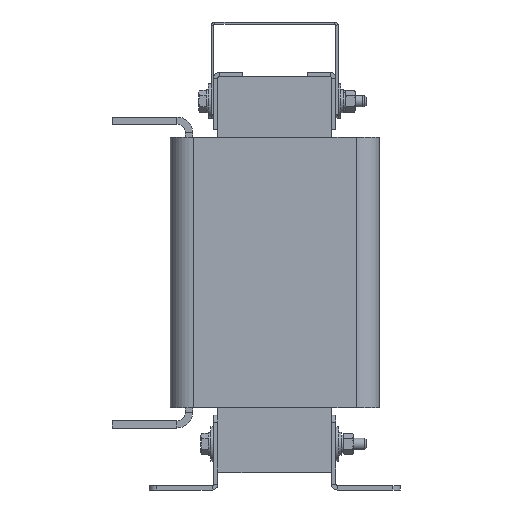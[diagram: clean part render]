
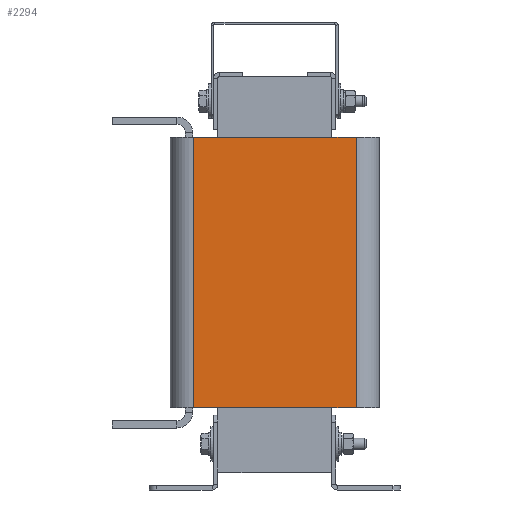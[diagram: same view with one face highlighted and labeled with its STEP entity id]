
A CAD part, left-side view. The second image highlights one B-rep face of the part: STEP entity #2294.
In plain terms, the highlighted planar face has unit normal (-1, 0, 0).
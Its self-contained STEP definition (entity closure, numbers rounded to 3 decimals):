
#2294=ADVANCED_FACE('',(#3320),#3322,.T.);
#3320=FACE_BOUND('',#3321,.T.);
#3321=EDGE_LOOP('',(#4594,#4595,#4596,#4597));
#3322=PLANE('',#3323);
#3323=AXIS2_PLACEMENT_3D('',#3324,#3325,#3326);
#3324=CARTESIAN_POINT('',(-43.,56.5,0.));
#3325=DIRECTION('',(-1.,0.,0.));
#3326=DIRECTION('',(0.,-1.,0.));
#4594=ORIENTED_EDGE('',*,*,#5213,.T.);
#4595=ORIENTED_EDGE('',*,*,#5241,.T.);
#4596=ORIENTED_EDGE('',*,*,#5218,.F.);
#4597=ORIENTED_EDGE('',*,*,#5234,.F.);
#5213=EDGE_CURVE('',#5730,#5742,#5744,.T.);
#5218=EDGE_CURVE('',#5753,#5754,#5755,.T.);
#5234=EDGE_CURVE('',#5730,#5753,#5781,.T.);
#5241=EDGE_CURVE('',#5742,#5754,#5788,.T.);
#5730=VERTEX_POINT('',#6778);
#5742=VERTEX_POINT('',#6805);
#5744=LINE('',#6810,#6811);
#5753=VERTEX_POINT('',#6829);
#5754=VERTEX_POINT('',#6830);
#5755=LINE('',#6831,#6832);
#5781=LINE('',#6893,#6894);
#5788=LINE('',#6914,#6915);
#6778=CARTESIAN_POINT('',(-43.,56.5,0.));
#6805=CARTESIAN_POINT('',(-43.,-56.5,0.));
#6810=CARTESIAN_POINT('',(-43.,56.5,0.));
#6811=VECTOR('',#6812,1.);
#6812=DIRECTION('',(0.,-1.,0.));
#6829=CARTESIAN_POINT('',(-43.,56.5,188.));
#6830=CARTESIAN_POINT('',(-43.,-56.5,188.));
#6831=CARTESIAN_POINT('',(-43.,56.5,188.));
#6832=VECTOR('',#6833,1.);
#6833=DIRECTION('',(0.,-1.,0.));
#6893=CARTESIAN_POINT('',(-43.,56.5,0.));
#6894=VECTOR('',#6895,1.);
#6895=DIRECTION('',(0.,0.,1.));
#6914=CARTESIAN_POINT('',(-43.,-56.5,0.));
#6915=VECTOR('',#6916,1.);
#6916=DIRECTION('',(0.,0.,1.));
